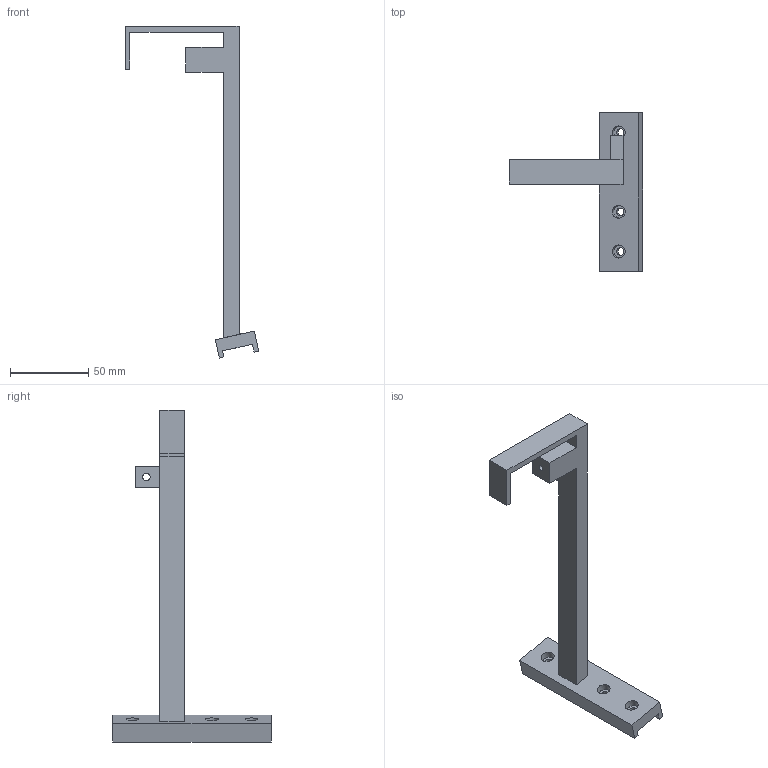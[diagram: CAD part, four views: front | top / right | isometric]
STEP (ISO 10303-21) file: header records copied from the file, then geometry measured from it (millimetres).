
FILE_DESCRIPTION(('Open CASCADE Model'),'2;1');
FILE_NAME('Open CASCADE Shape Model','2026-10-16T05:05:18',('Author'),( 'Open CASCADE'),'Open CASCADE STEP processor 7.9','Open CASCADE 7.9' ,'Unknown');
FILE_SCHEMA(('AUTOMOTIVE_DESIGN { 1 0 10303 214 1 1 1 1 }'));
Length unit declared in the file: millimetre
Products named in the file (1): Open CASCADE STEP translator 7.9 2
Bounding box: 85.52 x 101.6 x 212.56 mm (x, y, z)
Volume: 67092.3 mm3; surface area: 25968.3 mm2
Topology: 1 solids, 1 shells, 38 faces, 96 edges, 64 vertices
Faces by surface type: plane 30, cylinder 8
Full cylindrical faces by diameter (mm): 3.4 x1, 4.8 x3, 4.9 x1, 8.4 x3
Entity records: 2437 total; most frequent: CARTESIAN_POINT 485, DIRECTION 353, LINE 240, VECTOR 240, ORIENTED_EDGE 192, PCURVE 192, DEFINITIONAL_REPRESENTATION 192, EDGE_CURVE 96
